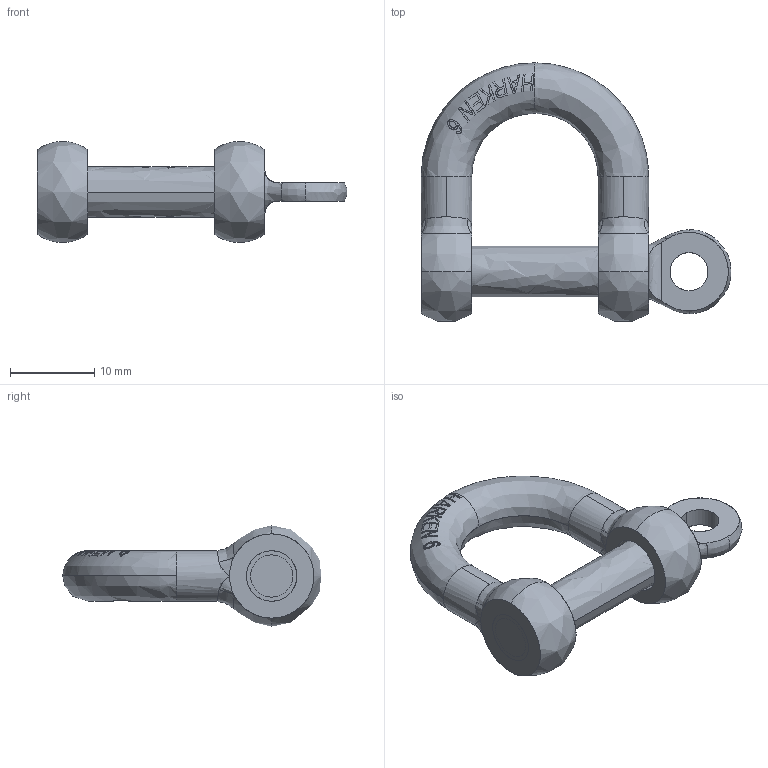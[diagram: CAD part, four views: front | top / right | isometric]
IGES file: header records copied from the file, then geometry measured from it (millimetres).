
Start section: SolidWorks IGES file using analytic representation for surfaces
Global section: file name: C:\Documents and Settings\chriss\Desktop\ASSY_2_IGS\Complementary\2108.IGS; native system: SolidWorks 2005 by SolidWorks Corporation; preprocessor: SolidWorks 2005 by SolidWorks Corporation; author: chriss; date: 041129.133851; units: inch
Bounding box: 36.76 x 30.67 x 12 mm (x, y, z)
Surface area: 2340.9 mm2 (no closed solid volume)
Topology: 0 solids, 0 shells, 155 faces, 1944 edges, 1938 vertices
Faces by surface type: bspline 143, revolution 12
